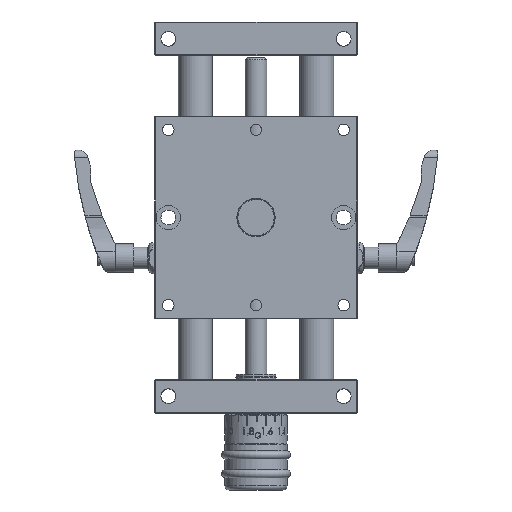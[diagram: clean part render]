
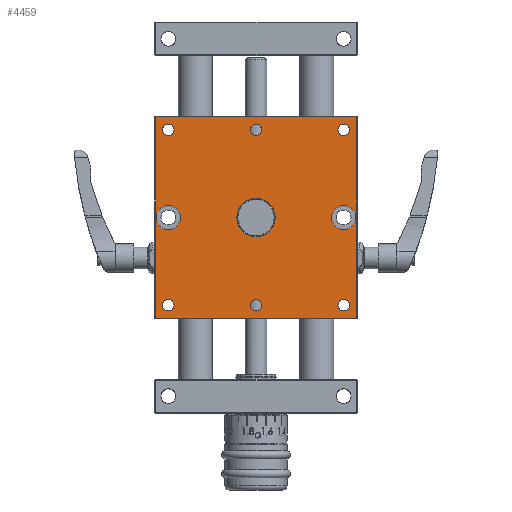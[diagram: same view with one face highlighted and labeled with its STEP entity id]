
A CAD part, front view. The second image highlights one B-rep face of the part: STEP entity #4459.
In plain terms, the highlighted planar face has unit normal (0, -1, 0) as drawn and (0, 0, -1) by its records, which use the part's own axes.
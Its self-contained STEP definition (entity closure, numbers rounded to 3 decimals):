
#218 = CARTESIAN_POINT ( 'NONE',  ( 135.75, 10., -50. ) ) ;
#612 = ORIENTED_EDGE ( 'NONE', *, *, #2728, .F. ) ;
#1324 = LINE ( 'NONE', #25235, #2462 ) ;
#1948 = FACE_BOUND ( 'NONE', #9875, .T. ) ;
#1980 = CARTESIAN_POINT ( 'NONE',  ( 0.2, 149.8, -50. ) ) ;
#2174 = ORIENTED_EDGE ( 'NONE', *, *, #47352, .F. ) ;
#2287 = DIRECTION ( 'NONE',  ( -1., 0., 0. ) ) ;
#2348 = DIRECTION ( 'NONE',  ( -1., 0., 0. ) ) ;
#2462 = VECTOR ( 'NONE', #28604, 1000. ) ;
#2728 = EDGE_CURVE ( 'NONE', #18238, #18238, #38816, .T. ) ;
#3370 = VECTOR ( 'NONE', #47898, 1000. ) ;
#3658 = CARTESIAN_POINT ( 'NONE',  ( 5.75, 75., -50. ) ) ;
#3818 = EDGE_CURVE ( 'NONE', #8710, #8710, #19759, .T. ) ;
#4459 = ADVANCED_FACE ( 'NONE', ( #16872, #37213, #9167, #9663, #24593, #1948, #25350, #13288, #40313, #17620 ), #33335, .T. ) ;
#5003 = ORIENTED_EDGE ( 'NONE', *, *, #30667, .F. ) ;
#5625 = EDGE_LOOP ( 'NONE', ( #45900 ) ) ;
#5661 = EDGE_CURVE ( 'NONE', #20514, #20514, #12419, .T. ) ;
#5922 = CARTESIAN_POINT ( 'NONE',  ( 150., 149.8, -50. ) ) ;
#6307 = ORIENTED_EDGE ( 'NONE', *, *, #5661, .F. ) ;
#7716 = ORIENTED_EDGE ( 'NONE', *, *, #11204, .F. ) ;
#8618 = EDGE_LOOP ( 'NONE', ( #15607 ) ) ;
#8710 = VERTEX_POINT ( 'NONE', #39341 ) ;
#9167 = FACE_BOUND ( 'NONE', #49246, .T. ) ;
#9663 = FACE_BOUND ( 'NONE', #8618, .T. ) ;
#9759 = VERTEX_POINT ( 'NONE', #13213 ) ;
#9875 = EDGE_LOOP ( 'NONE', ( #7716 ) ) ;
#10083 = DIRECTION ( 'NONE',  ( -1., 0., 0. ) ) ;
#10161 = CIRCLE ( 'NONE', #37278, 9. ) ;
#10879 = CARTESIAN_POINT ( 'NONE',  ( 0.2, 0.2, -50. ) ) ;
#10921 = DIRECTION ( 'NONE',  ( 0., 0., -1. ) ) ;
#10985 = VERTEX_POINT ( 'NONE', #31014 ) ;
#11204 = EDGE_CURVE ( 'NONE', #21782, #21782, #39819, .T. ) ;
#11229 = EDGE_CURVE ( 'NONE', #9759, #10985, #21642, .T. ) ;
#12059 = ORIENTED_EDGE ( 'NONE', *, *, #24475, .T. ) ;
#12419 = CIRCLE ( 'NONE', #38730, 4.25 ) ;
#12471 = EDGE_LOOP ( 'NONE', ( #28308, #26516, #12059, #30317 ) ) ;
#13213 = CARTESIAN_POINT ( 'NONE',  ( 149.8, 149.8, -50. ) ) ;
#13288 = FACE_BOUND ( 'NONE', #21416, .T. ) ;
#13740 = CARTESIAN_POINT ( 'NONE',  ( 75., 140., -50. ) ) ;
#13851 = AXIS2_PLACEMENT_3D ( 'NONE', #26255, #21362, #2348 ) ;
#14091 = CARTESIAN_POINT ( 'NONE',  ( 5.75, 10., -50. ) ) ;
#14207 = DIRECTION ( 'NONE',  ( 0., 0., -1. ) ) ;
#14867 = AXIS2_PLACEMENT_3D ( 'NONE', #39081, #26724, #18472 ) ;
#15607 = ORIENTED_EDGE ( 'NONE', *, *, #20407, .F. ) ;
#16073 = CIRCLE ( 'NONE', #49811, 4.25 ) ;
#16872 = FACE_BOUND ( 'NONE', #32035, .T. ) ;
#16884 = EDGE_CURVE ( 'NONE', #10985, #40300, #1324, .T. ) ;
#17121 = CARTESIAN_POINT ( 'NONE',  ( 66., 140., -50. ) ) ;
#17122 = DIRECTION ( 'NONE',  ( -1., 0., 0. ) ) ;
#17281 = CARTESIAN_POINT ( 'NONE',  ( 10., 140., -50. ) ) ;
#17419 = EDGE_LOOP ( 'NONE', ( #22482 ) ) ;
#17620 = FACE_OUTER_BOUND ( 'NONE', #12471, .T. ) ;
#18034 = DIRECTION ( 'NONE',  ( 0., -1., 0. ) ) ;
#18206 = DIRECTION ( 'NONE',  ( -1., 0., 0. ) ) ;
#18238 = VERTEX_POINT ( 'NONE', #25972 ) ;
#18472 = DIRECTION ( 'NONE',  ( -1., 0., 0. ) ) ;
#18990 = AXIS2_PLACEMENT_3D ( 'NONE', #28719, #28209, #17122 ) ;
#19008 = DIRECTION ( 'NONE',  ( 0., 0., -1. ) ) ;
#19759 = CIRCLE ( 'NONE', #14867, 4.25 ) ;
#19856 = AXIS2_PLACEMENT_3D ( 'NONE', #24886, #34325, #21006 ) ;
#19935 = EDGE_LOOP ( 'NONE', ( #612 ) ) ;
#20208 = CARTESIAN_POINT ( 'NONE',  ( 140., 10., -50. ) ) ;
#20407 = EDGE_CURVE ( 'NONE', #49365, #49365, #25580, .T. ) ;
#20514 = VERTEX_POINT ( 'NONE', #218 ) ;
#21006 = DIRECTION ( 'NONE',  ( -1., 0., 0. ) ) ;
#21362 = DIRECTION ( 'NONE',  ( 0., 0., -1. ) ) ;
#21416 = EDGE_LOOP ( 'NONE', ( #2174 ) ) ;
#21589 = DIRECTION ( 'NONE',  ( 1., 0., 0. ) ) ;
#21642 = LINE ( 'NONE', #45355, #22558 ) ;
#21782 = VERTEX_POINT ( 'NONE', #40365 ) ;
#21974 = DIRECTION ( 'NONE',  ( -1., 0., 0. ) ) ;
#22482 = ORIENTED_EDGE ( 'NONE', *, *, #35201, .F. ) ;
#22558 = VECTOR ( 'NONE', #18034, 1000. ) ;
#23953 = VERTEX_POINT ( 'NONE', #1980 ) ;
#24475 = EDGE_CURVE ( 'NONE', #40300, #23953, #28818, .T. ) ;
#24593 = FACE_BOUND ( 'NONE', #17419, .T. ) ;
#24886 = CARTESIAN_POINT ( 'NONE',  ( 140., 75., -50. ) ) ;
#25235 = CARTESIAN_POINT ( 'NONE',  ( 0., 0.2, -50. ) ) ;
#25350 = FACE_BOUND ( 'NONE', #36036, .T. ) ;
#25580 = CIRCLE ( 'NONE', #42864, 4.25 ) ;
#25972 = CARTESIAN_POINT ( 'NONE',  ( 135.75, 75., -50. ) ) ;
#26194 = CARTESIAN_POINT ( 'NONE',  ( 75., 75., -50. ) ) ;
#26255 = CARTESIAN_POINT ( 'NONE',  ( 75., 10., -50. ) ) ;
#26516 = ORIENTED_EDGE ( 'NONE', *, *, #16884, .T. ) ;
#26724 = DIRECTION ( 'NONE',  ( 0., 0., -1. ) ) ;
#28209 = DIRECTION ( 'NONE',  ( 0., 0., -1. ) ) ;
#28308 = ORIENTED_EDGE ( 'NONE', *, *, #11229, .T. ) ;
#28309 = CARTESIAN_POINT ( 'NONE',  ( 0.2, 150., -50. ) ) ;
#28604 = DIRECTION ( 'NONE',  ( -1., 0., 0. ) ) ;
#28719 = CARTESIAN_POINT ( 'NONE',  ( 0., 150., -50. ) ) ;
#28818 = LINE ( 'NONE', #28309, #3370 ) ;
#28925 = DIRECTION ( 'NONE',  ( 0., 0., -1. ) ) ;
#29345 = CARTESIAN_POINT ( 'NONE',  ( 66., 10., -50. ) ) ;
#30317 = ORIENTED_EDGE ( 'NONE', *, *, #35958, .T. ) ;
#30667 = EDGE_CURVE ( 'NONE', #40567, #40567, #10161, .T. ) ;
#31014 = CARTESIAN_POINT ( 'NONE',  ( 149.8, 0.2, -50. ) ) ;
#31188 = CARTESIAN_POINT ( 'NONE',  ( 60.8, 75., -50. ) ) ;
#32035 = EDGE_LOOP ( 'NONE', ( #45753 ) ) ;
#33335 = PLANE ( 'NONE',  #18990 ) ;
#33411 = DIRECTION ( 'NONE',  ( 0., 0., 1. ) ) ;
#33453 = VERTEX_POINT ( 'NONE', #29345 ) ;
#34192 = CIRCLE ( 'NONE', #44102, 14.2 ) ;
#34325 = DIRECTION ( 'NONE',  ( 0., 0., -1. ) ) ;
#34736 = DIRECTION ( 'NONE',  ( -1., 0., 0. ) ) ;
#35052 = VERTEX_POINT ( 'NONE', #31188 ) ;
#35201 = EDGE_CURVE ( 'NONE', #41563, #41563, #16073, .T. ) ;
#35822 = VECTOR ( 'NONE', #21589, 1000. ) ;
#35958 = EDGE_CURVE ( 'NONE', #23953, #9759, #49944, .T. ) ;
#36033 = CIRCLE ( 'NONE', #13851, 9. ) ;
#36036 = EDGE_LOOP ( 'NONE', ( #5003 ) ) ;
#37213 = FACE_BOUND ( 'NONE', #19935, .T. ) ;
#37278 = AXIS2_PLACEMENT_3D ( 'NONE', #13740, #28925, #41013 ) ;
#37410 = EDGE_CURVE ( 'NONE', #35052, #35052, #34192, .T. ) ;
#37451 = CARTESIAN_POINT ( 'NONE',  ( 10., 75., -50. ) ) ;
#38730 = AXIS2_PLACEMENT_3D ( 'NONE', #20208, #19008, #34736 ) ;
#38816 = CIRCLE ( 'NONE', #19856, 4.25 ) ;
#39081 = CARTESIAN_POINT ( 'NONE',  ( 140., 140., -50. ) ) ;
#39341 = CARTESIAN_POINT ( 'NONE',  ( 135.75, 140., -50. ) ) ;
#39819 = CIRCLE ( 'NONE', #42312, 4.25 ) ;
#40300 = VERTEX_POINT ( 'NONE', #10879 ) ;
#40313 = FACE_BOUND ( 'NONE', #5625, .T. ) ;
#40365 = CARTESIAN_POINT ( 'NONE',  ( 5.75, 140., -50. ) ) ;
#40567 = VERTEX_POINT ( 'NONE', #17121 ) ;
#40647 = DIRECTION ( 'NONE',  ( 0., 0., -1. ) ) ;
#41013 = DIRECTION ( 'NONE',  ( -1., 0., 0. ) ) ;
#41563 = VERTEX_POINT ( 'NONE', #3658 ) ;
#42312 = AXIS2_PLACEMENT_3D ( 'NONE', #17281, #14207, #10083 ) ;
#42864 = AXIS2_PLACEMENT_3D ( 'NONE', #44523, #40647, #2287 ) ;
#44102 = AXIS2_PLACEMENT_3D ( 'NONE', #26194, #33411, #18206 ) ;
#44523 = CARTESIAN_POINT ( 'NONE',  ( 10., 10., -50. ) ) ;
#45355 = CARTESIAN_POINT ( 'NONE',  ( 149.8, 0., -50. ) ) ;
#45753 = ORIENTED_EDGE ( 'NONE', *, *, #3818, .F. ) ;
#45900 = ORIENTED_EDGE ( 'NONE', *, *, #37410, .T. ) ;
#47352 = EDGE_CURVE ( 'NONE', #33453, #33453, #36033, .T. ) ;
#47898 = DIRECTION ( 'NONE',  ( 0., 1., 0. ) ) ;
#49246 = EDGE_LOOP ( 'NONE', ( #6307 ) ) ;
#49365 = VERTEX_POINT ( 'NONE', #14091 ) ;
#49811 = AXIS2_PLACEMENT_3D ( 'NONE', #37451, #10921, #21974 ) ;
#49944 = LINE ( 'NONE', #5922, #35822 ) ;
